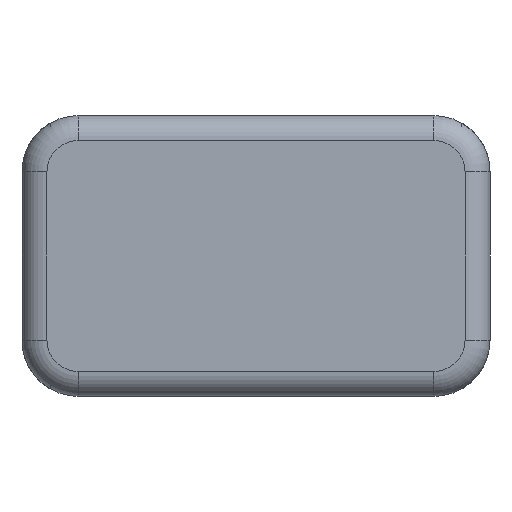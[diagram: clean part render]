
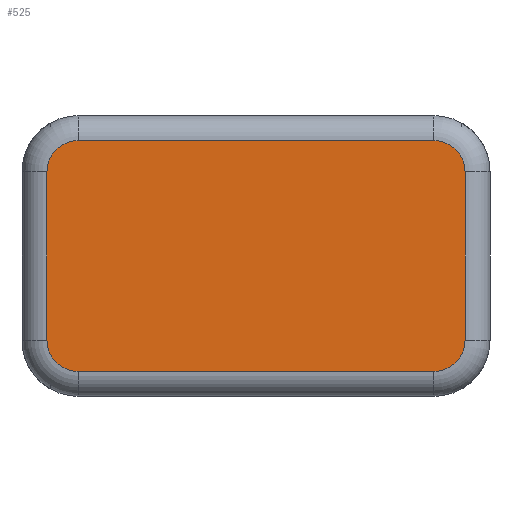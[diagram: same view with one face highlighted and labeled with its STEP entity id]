
A CAD part, front view. The second image highlights one B-rep face of the part: STEP entity #525.
In plain terms, the highlighted planar face has unit normal (0, -1, 0).
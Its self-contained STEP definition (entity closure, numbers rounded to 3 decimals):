
#145=CARTESIAN_POINT('',(28.5,-477.,-13.5));
#146=DIRECTION('',(0.,-1.,0.));
#147=DIRECTION('',(0.,0.,-1.));
#148=AXIS2_PLACEMENT_3D('',#145,#146,#147);
#159=DIRECTION('',(1.,0.,0.));
#160=VECTOR('',#159,57.);
#161=CARTESIAN_POINT('',(-28.5,-477.,18.5));
#162=LINE('',#161,#160);
#186=CARTESIAN_POINT('',(-28.5,-477.,13.5));
#187=DIRECTION('',(0.,-1.,0.));
#188=DIRECTION('',(0.,0.,1.));
#189=AXIS2_PLACEMENT_3D('',#186,#187,#188);
#200=DIRECTION('',(0.,0.,-1.));
#201=VECTOR('',#200,27.);
#202=CARTESIAN_POINT('',(-33.5,-477.,13.5));
#203=LINE('',#202,#201);
#212=CARTESIAN_POINT('',(-28.5,-477.,-13.5));
#213=DIRECTION('',(0.,-1.,0.));
#214=DIRECTION('',(-1.,0.,0.));
#215=AXIS2_PLACEMENT_3D('',#212,#213,#214);
#226=DIRECTION('',(1.,0.,0.));
#227=VECTOR('',#226,57.);
#228=CARTESIAN_POINT('',(-28.5,-477.,-18.5));
#229=LINE('',#228,#227);
#317=CARTESIAN_POINT('',(28.5,-477.,13.5));
#318=DIRECTION('',(0.,-1.,0.));
#319=DIRECTION('',(1.,0.,0.));
#320=AXIS2_PLACEMENT_3D('',#317,#318,#319);
#331=DIRECTION('',(0.,0.,1.));
#332=VECTOR('',#331,27.);
#333=CARTESIAN_POINT('',(33.5,-477.,-13.5));
#334=LINE('',#333,#332);
#404=CARTESIAN_POINT('',(28.5,-477.,-18.5));
#405=CARTESIAN_POINT('',(33.5,-477.,-13.5));
#406=VERTEX_POINT('',#404);
#407=VERTEX_POINT('',#405);
#408=CARTESIAN_POINT('',(33.5,-477.,13.5));
#409=VERTEX_POINT('',#408);
#410=CARTESIAN_POINT('',(28.5,-477.,18.5));
#411=VERTEX_POINT('',#410);
#412=CARTESIAN_POINT('',(-28.5,-477.,18.5));
#413=CARTESIAN_POINT('',(-33.5,-477.,13.5));
#414=VERTEX_POINT('',#412);
#415=VERTEX_POINT('',#413);
#416=CARTESIAN_POINT('',(-33.5,-477.,-13.5));
#417=VERTEX_POINT('',#416);
#418=CARTESIAN_POINT('',(-28.5,-477.,-18.5));
#419=VERTEX_POINT('',#418);
#503=CARTESIAN_POINT('',(0.,-477.,0.));
#504=DIRECTION('',(0.,1.,0.));
#505=DIRECTION('',(0.,0.,1.));
#506=AXIS2_PLACEMENT_3D('',#503,#504,#505);
#507=PLANE('',#506);
#509=ORIENTED_EDGE('',*,*,#508,.T.);
#511=ORIENTED_EDGE('',*,*,#510,.F.);
#513=ORIENTED_EDGE('',*,*,#512,.F.);
#514=ORIENTED_EDGE('',*,*,#493,.F.);
#516=ORIENTED_EDGE('',*,*,#515,.F.);
#518=ORIENTED_EDGE('',*,*,#517,.F.);
#520=ORIENTED_EDGE('',*,*,#519,.F.);
#522=ORIENTED_EDGE('',*,*,#521,.F.);
#523=EDGE_LOOP('',(#509,#511,#513,#514,#516,#518,#520,#522));
#524=FACE_OUTER_BOUND('',#523,.F.);
#149=CIRCLE('',#148,5.);
#190=CIRCLE('',#189,5.);
#216=CIRCLE('',#215,5.);
#321=CIRCLE('',#320,5.);
#493=EDGE_CURVE('',#406,#407,#149,.T.);
#508=EDGE_CURVE('',#414,#411,#162,.T.);
#510=EDGE_CURVE('',#409,#411,#321,.T.);
#512=EDGE_CURVE('',#407,#409,#334,.T.);
#515=EDGE_CURVE('',#419,#406,#229,.T.);
#517=EDGE_CURVE('',#417,#419,#216,.T.);
#519=EDGE_CURVE('',#415,#417,#203,.T.);
#521=EDGE_CURVE('',#414,#415,#190,.T.);
#525=ADVANCED_FACE('',(#524),#507,.F.);
